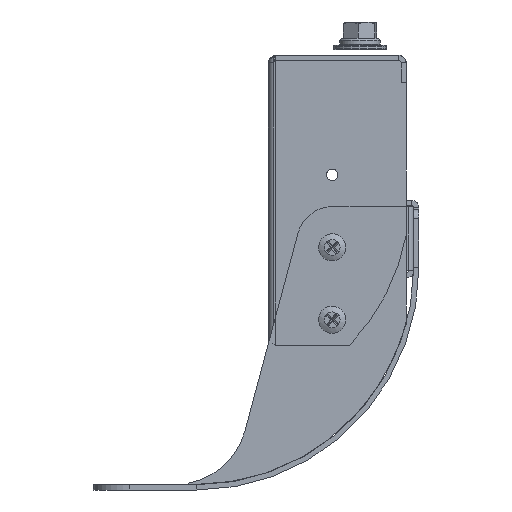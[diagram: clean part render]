
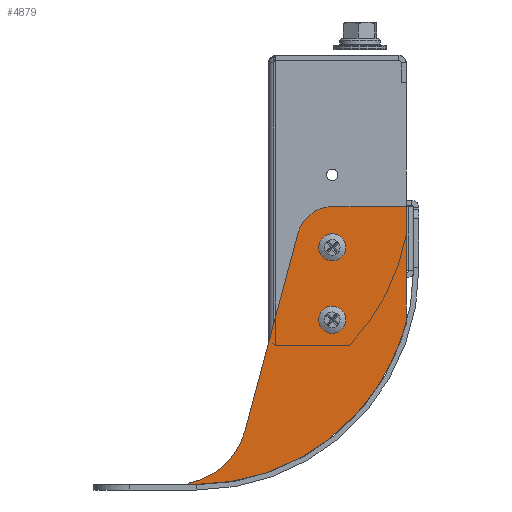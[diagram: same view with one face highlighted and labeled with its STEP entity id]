
A CAD part, left-side view. The second image highlights one B-rep face of the part: STEP entity #4879.
In plain terms, the highlighted planar face has unit normal (-1, 0, 0) as drawn and (1, 0, 0) by its records, which use the part's own axes.
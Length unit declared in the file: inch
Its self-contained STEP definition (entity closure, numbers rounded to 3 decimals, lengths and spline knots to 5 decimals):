
#279=FACE_BOUND('',#1101,.T.);
#280=FACE_BOUND('',#1102,.T.);
#523=PLANE('',#5311);
#718=FACE_OUTER_BOUND('',#1100,.T.);
#1100=EDGE_LOOP('',(#3995,#3996,#3997,#3998,#3999,#4000,#4001,#4002,#4003));
#1101=EDGE_LOOP('',(#4004));
#1102=EDGE_LOOP('',(#4005));
#1574=LINE('',#7649,#1882);
#1588=LINE('',#7688,#1896);
#1608=LINE('',#7754,#1916);
#1611=LINE('',#7759,#1919);
#1615=LINE('',#7771,#1923);
#1882=VECTOR('',#6197,1.01434);
#1896=VECTOR('',#6243,0.883);
#1916=VECTOR('',#6323,0.72763);
#1919=VECTOR('',#6328,2.81929);
#1923=VECTOR('',#6342,0.09491);
#2156=CIRCLE('',#5246,0.5);
#2179=CIRCLE('',#5297,0.109);
#2180=CIRCLE('',#5299,0.109);
#2181=CIRCLE('',#5303,1.);
#2182=CIRCLE('',#5305,0.01);
#2183=CIRCLE('',#5308,3.);
#2499=VERTEX_POINT('',#7619);
#2500=VERTEX_POINT('',#7620);
#2512=VERTEX_POINT('',#7648);
#2520=VERTEX_POINT('',#7681);
#2535=VERTEX_POINT('',#7747);
#2536=VERTEX_POINT('',#7750);
#2537=VERTEX_POINT('',#7753);
#2538=VERTEX_POINT('',#7757);
#2539=VERTEX_POINT('',#7761);
#2540=VERTEX_POINT('',#7765);
#2541=VERTEX_POINT('',#7769);
#3002=EDGE_CURVE('',#2499,#2500,#2156,.T.);
#3016=EDGE_CURVE('',#2500,#2512,#1574,.T.);
#3037=EDGE_CURVE('',#2520,#2512,#1588,.T.);
#3066=EDGE_CURVE('',#2535,#2535,#2179,.T.);
#3067=EDGE_CURVE('',#2536,#2536,#2180,.T.);
#3068=EDGE_CURVE('',#2537,#2520,#1608,.T.);
#3071=EDGE_CURVE('',#2499,#2538,#1611,.T.);
#3073=EDGE_CURVE('',#2538,#2539,#2181,.T.);
#3075=EDGE_CURVE('',#2539,#2540,#2182,.T.);
#3077=EDGE_CURVE('',#2540,#2541,#1615,.T.);
#3078=EDGE_CURVE('',#2541,#2537,#2183,.T.);
#3995=ORIENTED_EDGE('',*,*,#3002,.F.);
#3996=ORIENTED_EDGE('',*,*,#3071,.T.);
#3997=ORIENTED_EDGE('',*,*,#3073,.T.);
#3998=ORIENTED_EDGE('',*,*,#3075,.T.);
#3999=ORIENTED_EDGE('',*,*,#3077,.T.);
#4000=ORIENTED_EDGE('',*,*,#3078,.T.);
#4001=ORIENTED_EDGE('',*,*,#3068,.T.);
#4002=ORIENTED_EDGE('',*,*,#3037,.T.);
#4003=ORIENTED_EDGE('',*,*,#3016,.F.);
#4004=ORIENTED_EDGE('',*,*,#3066,.T.);
#4005=ORIENTED_EDGE('',*,*,#3067,.T.);
#4879=ADVANCED_FACE('',(#718,#279,#280),#523,.F.);
#5246=AXIS2_PLACEMENT_3D('',#7621,#6172,#6173);
#5297=AXIS2_PLACEMENT_3D('',#7748,#6315,#6316);
#5299=AXIS2_PLACEMENT_3D('',#7751,#6319,#6320);
#5303=AXIS2_PLACEMENT_3D('',#7763,#6332,#6333);
#5305=AXIS2_PLACEMENT_3D('',#7767,#6337,#6338);
#5308=AXIS2_PLACEMENT_3D('',#7773,#6345,#6346);
#5311=AXIS2_PLACEMENT_3D('',#7776,#6351,#6352);
#6172=DIRECTION('center_axis',(-1.,0.,0.));
#6173=DIRECTION('ref_axis',(0.,0.793,0.609));
#6197=DIRECTION('',(0.,0.,-1.));
#6243=DIRECTION('',(0.,1.,0.));
#6315=DIRECTION('center_axis',(-1.,0.,0.));
#6316=DIRECTION('ref_axis',(0.,0.,
-1.));
#6319=DIRECTION('center_axis',(-1.,0.,0.));
#6320=DIRECTION('ref_axis',(0.,0.,
-1.));
#6323=DIRECTION('',(0.,1.,0.));
#6328=DIRECTION('',(0.,-0.966,0.259));
#6332=DIRECTION('center_axis',(-1.,0.,0.));
#6333=DIRECTION('ref_axis',(0.,0.98,0.198));
#6337=DIRECTION('center_axis',(1.,0.,0.));
#6338=DIRECTION('ref_axis',(0.,0.98,0.198));
#6342=DIRECTION('',(0.,0.,-1.));
#6345=DIRECTION('center_axis',(1.,0.,0.));
#6346=DIRECTION('ref_axis',(0.,-1.,0.));
#6351=DIRECTION('center_axis',(-1.,0.,0.));
#6352=DIRECTION('ref_axis',(0.,0.,1.));
#7619=CARTESIAN_POINT('',(12.0625,0.12191,1.5993));
#7620=CARTESIAN_POINT('',(12.0625,0.4925,1.11634));
#7621=CARTESIAN_POINT('Origin',(12.0625,-0.0075,1.11634));
#7648=CARTESIAN_POINT('',(12.0625,0.4925,0.102));
#7649=CARTESIAN_POINT('',(12.0625,0.4925,-0.04993));
#7681=CARTESIAN_POINT('',(12.0625,-0.3905,0.102));
#7688=CARTESIAN_POINT('',(12.0625,0.,0.102));
#7747=CARTESIAN_POINT('',(12.0625,-0.07,1.017));
#7748=CARTESIAN_POINT('Origin',(12.0625,-0.07,1.126));
#7750=CARTESIAN_POINT('',(12.0625,-1.07,1.017));
#7751=CARTESIAN_POINT('Origin',(12.0625,-1.07,1.126));
#7753=CARTESIAN_POINT('',(12.0625,-1.11813,0.102));
#7754=CARTESIAN_POINT('',(12.0625,0.,0.102));
#7757=CARTESIAN_POINT('',(12.0625,-2.60132,2.32899));
#7759=CARTESIAN_POINT('',(12.0625,0.4925,1.5));
#7761=CARTESIAN_POINT('',(12.0625,-3.3227,3.09689));
#7763=CARTESIAN_POINT('Origin',(12.0625,-2.3425,3.29491));
#7765=CARTESIAN_POINT('',(12.0625,-3.3425,3.09491));
#7767=CARTESIAN_POINT('Origin',(12.0625,-3.3325,3.09491));
#7769=CARTESIAN_POINT('',(12.0625,-3.3425,3.));
#7771=CARTESIAN_POINT('',(12.0625,-3.3425,3.09491));
#7773=CARTESIAN_POINT('Origin',(12.0625,-0.3425,3.));
#7776=CARTESIAN_POINT('Origin',(12.0625,0.,0.76302));
